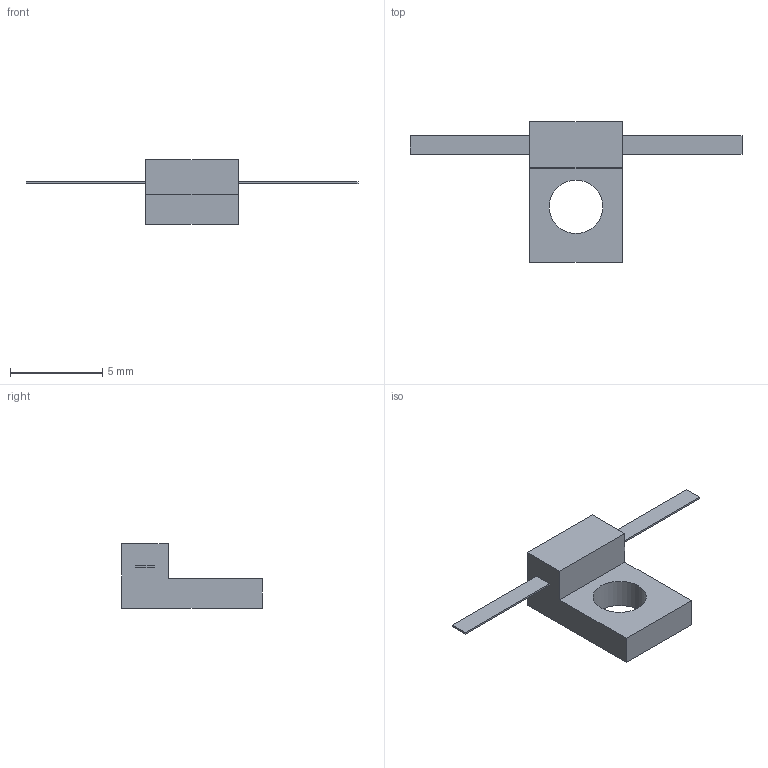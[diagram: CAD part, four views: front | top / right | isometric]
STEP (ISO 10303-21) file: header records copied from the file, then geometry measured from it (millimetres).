
FILE_DESCRIPTION(('STEP AP203'), '1');
FILE_NAME('P1-170-20-04', '', ('UNSPECIFIED'), ('UNSPECIFIED'), 'ASCON STEP Converter 1.6', 'ASCON Math Kernel', '');
FILE_SCHEMA(('CONFIG_CONTROL_DESIGN'));
Length unit declared in the file: millimetre
Bounding box: 18 x 7.6 x 3.5 mm (x, y, z)
Volume: 75.3 mm3; surface area: 174.8 mm2
Topology: 1 solids, 1 shells, 19 faces, 45 edges, 30 vertices
Faces by surface type: plane 18, cylinder 1
Full cylindrical faces by diameter (mm): 2.9 x1
Entity records: 736 total; most frequent: CARTESIAN_POINT 94, ORIENTED_EDGE 88, DIRECTION 86, EDGE_CURVE 44, LINE 42, VECTOR 42, VERTEX_POINT 30, EDGE_LOOP 24
